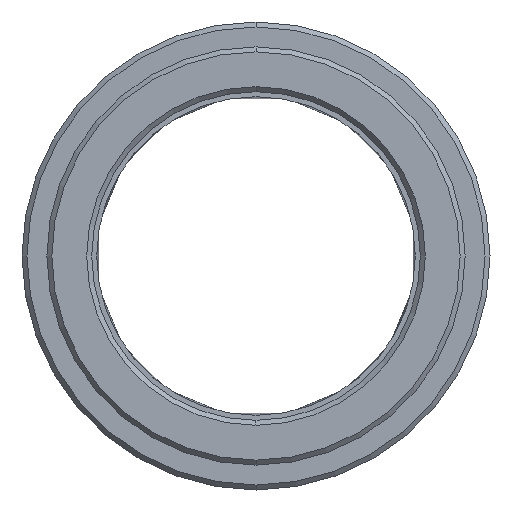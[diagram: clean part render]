
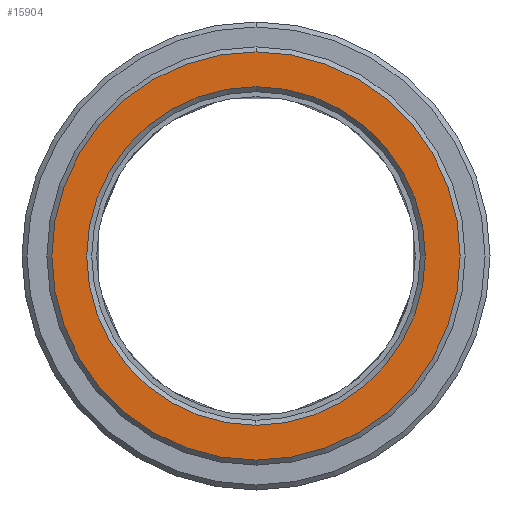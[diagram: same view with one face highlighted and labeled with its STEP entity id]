
A CAD part, left-side view. The second image highlights one B-rep face of the part: STEP entity #15904.
In plain terms, the highlighted planar face has unit normal (-1, 0, 0).
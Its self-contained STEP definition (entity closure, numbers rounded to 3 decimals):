
#6438=CARTESIAN_POINT('',(-8.,0.,
0.));
#6439=DIRECTION('',(1.,0.,0.));
#6440=DIRECTION('',(0.,0.,1.));
#6441=AXIS2_PLACEMENT_3D('',#6438,#6439,#6440);
#6443=CARTESIAN_POINT('',(-8.,0.,
0.));
#6444=DIRECTION('',(1.,0.,0.));
#6445=DIRECTION('',(0.,0.,-1.));
#6446=AXIS2_PLACEMENT_3D('',#6443,#6444,#6445);
#6448=CARTESIAN_POINT('',(-8.,0.,
0.));
#6449=DIRECTION('',(1.,0.,0.));
#6450=DIRECTION('',(0.,0.,1.));
#6451=AXIS2_PLACEMENT_3D('',#6448,#6449,#6450);
#6453=CARTESIAN_POINT('',(-8.,0.,
0.));
#6454=DIRECTION('',(1.,0.,0.));
#6455=DIRECTION('',(0.,0.,-1.));
#6456=AXIS2_PLACEMENT_3D('',#6453,#6454,#6455);
#13616=CARTESIAN_POINT('',(-8.,0.,17.));
#13617=CARTESIAN_POINT('',(-8.,0.,
-17.));
#13618=VERTEX_POINT('',#13616);
#13619=VERTEX_POINT('',#13617);
#13624=CARTESIAN_POINT('',(-8.,0.,20.5));
#13625=CARTESIAN_POINT('',(-8.,0.,-20.5));
#13626=VERTEX_POINT('',#13624);
#13627=VERTEX_POINT('',#13625);
#15888=CARTESIAN_POINT('',(-8.,0.,0.));
#15889=DIRECTION('',(1.,0.,0.));
#15890=DIRECTION('',(0.,0.,1.));
#15891=AXIS2_PLACEMENT_3D('',#15888,#15889,#15890);
#15892=PLANE('',#15891);
#15894=ORIENTED_EDGE('',*,*,#15893,.T.);
#15896=ORIENTED_EDGE('',*,*,#15895,.T.);
#15897=EDGE_LOOP('',(#15894,#15896));
#15898=FACE_OUTER_BOUND('',#15897,.F.);
#15900=ORIENTED_EDGE('',*,*,#15899,.F.);
#15901=ORIENTED_EDGE('',*,*,#15878,.F.);
#15902=EDGE_LOOP('',(#15900,#15901));
#15903=FACE_BOUND('',#15902,.F.);
#15904=ADVANCED_FACE('',(#15898,#15903),#15892,.F.);
#6442=CIRCLE('',#6441,20.5);
#6447=CIRCLE('',#6446,20.5);
#6452=CIRCLE('',#6451,17.);
#6457=CIRCLE('',#6456,17.);
#15878=EDGE_CURVE('',#13619,#13618,#6457,.T.);
#15893=EDGE_CURVE('',#13626,#13627,#6442,.T.);
#15895=EDGE_CURVE('',#13627,#13626,#6447,.T.);
#15899=EDGE_CURVE('',#13618,#13619,#6452,.T.);
